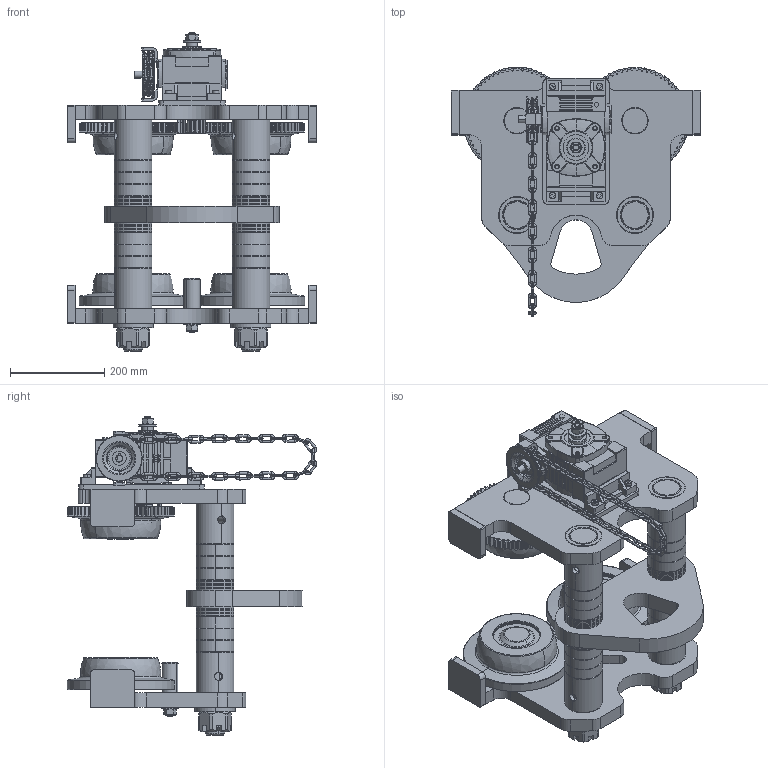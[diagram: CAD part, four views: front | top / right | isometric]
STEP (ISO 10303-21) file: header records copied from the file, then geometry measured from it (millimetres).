
FILE_DESCRIPTION (( 'STEP AP203' ), '1' );
FILE_NAME ('JS20T忒嶺苤陬.STEP', '2024-04-19T08:04:00', ( '' ), ( '' ), 'SwSTEP 2.0', 'SolidWorks 2021', '' );
FILE_SCHEMA (( 'CONFIG_CONTROL_DESIGN' ));
Products named in the file (1): JS20T忒嶺苤陬
Bounding box: 528 x 529.88 x 676 mm (x, y, z)
Surface area: 2132665.6 mm2 (no closed solid volume)
Topology: 0 solids, 161 shells, 2299 faces, 7556 edges, 5150 vertices
Faces by surface type: cylinder 954, plane 481, torus 346, bspline 281, cone 229, sphere 8
Entity records: 96605 total; most frequent: CARTESIAN_POINT 33487, DIRECTION 12870, ORIENTED_EDGE 12613, EDGE_CURVE 7531, VERTEX_POINT 5138, AXIS2_PLACEMENT_3D 5094, CIRCLE 3075, LINE 2682
